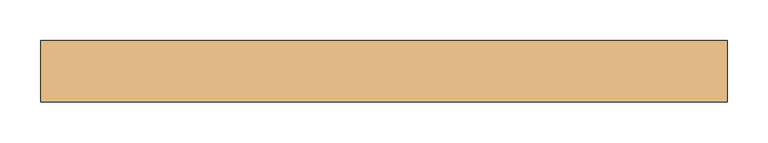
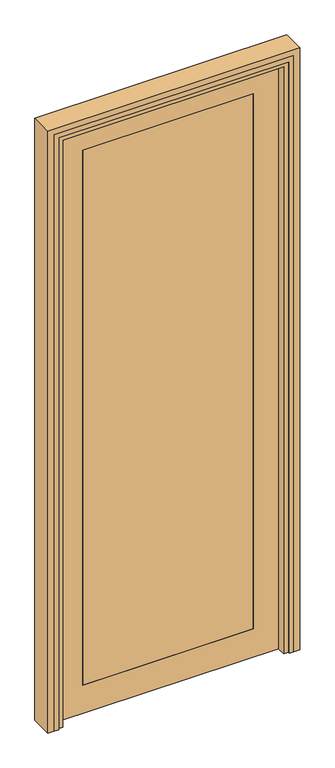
"""IFC4 building model written with IfcOpenShell, lengths in millimetres: door geometry, VERTI PANORAMA - dveřní panel : PANORAMA - dveřní panel."""

from ifc_helpers import new_model, si_unit, frame, origin, place, context, project, spatial, polyline, outline, extrude, faceted_brep, source, transform, mapped, element, save


def door_05e06224(model_context):
    return source(origin(), model_context, "Body", "SolidModel", [
        extrude(outline(polyline([(284.0, 37.5), (284.0, 32.5), (-284.0, 32.5), (-284.0, 37.5), (284.0, 37.5)])), frame((0.0, 0.0, 100.0), z_axis=(0.0, 0.0, 1.0), x_axis=(1.0, 0.0, 0.0)), (0.0, 0.0, 1.0), 1884.0),
        extrude(outline(polyline([(284.0, -2.5), (-284.0, -2.5), (-284.0, 2.5), (284.0, 2.5), (284.0, -2.5)])), frame((0.0, 0.0, 100.0), z_axis=(0.0, 0.0, 1.0), x_axis=(1.0, 0.0, 0.0)), (0.0, 0.0, 1.0), 1884.0),
        extrude(outline(polyline([(2084.0, 384.0), (2084.0, -384.0), (0.0, -384.0), (0.0, 384.0), (2084.0, 384.0)]), holes=[polyline([(100.0, 284.0), (100.0, -284.0), (1984.0, -284.0), (1984.0, 284.0), (100.0, 284.0)])]), frame((0.0, -2.5, 0.0), z_axis=(0.0, 1.0, 0.0), x_axis=(0.0, 0.0, 1.0)), (0.0, 0.0, 1.0), 40.0),
        extrude(outline(polyline([(0.0, 400.0), (0.0, 420.0), (2120.0, 420.0), (2120.0, -420.0), (0.0, -420.0), (0.0, -400.0), (2100.0, -400.0), (2100.0, 400.0), (0.0, 400.0)])), frame((0.0, -37.5, 0.0), z_axis=(0.0, 1.0, 0.0), x_axis=(0.0, 0.0, 1.0)), (0.0, 0.0, 1.0), 75.0),
        faceted_brep([(-384.0, -37.5, 0.0), (-400.0, -37.5, 0.0), (-400.0, 37.5, 0.0), (-384.0, 37.5, 0.0), (-384.0, -2.5, 0.0), (-368.0, -2.5, 0.0), (-368.0, -32.5, 0.0), (-384.0, -32.5, 0.0), (-384.0, -37.5, 2084.0), (384.0, -37.5, 2084.0), (384.0, -37.5, 0.0), (400.0, -37.5, 0.0), (400.0, -37.5, 2100.0), (-400.0, -37.5, 2100.0), (-400.0, 37.5, 2100.0), (400.0, 37.5, 2100.0), (400.0, 37.5, 0.0), (384.0, 37.5, 0.0), (384.0, 37.5, 2084.0), (-384.0, 37.5, 2084.0), (-384.0, -2.5, 2084.0), (384.0, -2.5, 2084.0), (384.0, -2.5, 0.0), (368.0, -2.5, 0.0), (368.0, -2.5, 2068.0), (-368.0, -2.5, 2068.0), (-368.0, -32.5, 2068.0), (368.0, -32.5, 2068.0), (368.0, -32.5, 0.0), (384.0, -32.5, 0.0), (384.0, -32.5, 2084.0), (-384.0, -32.5, 2084.0)], [[[0, 1, 2, 3, 4, 5, 6, 7]], [[1, 0, 8, 9, 10, 11, 12, 13]], [[2, 1, 13, 14]], [[3, 2, 14, 15, 16, 17, 18, 19]], [[4, 3, 19, 20]], [[5, 4, 20, 21, 22, 23, 24, 25]], [[6, 5, 25, 26]], [[7, 6, 26, 27, 28, 29, 30, 31]], [[0, 7, 31, 8]], [[9, 30, 29, 10]], [[10, 29, 28, 23, 22, 17, 16, 11]], [[15, 12, 11, 16]], [[21, 18, 17, 22]], [[27, 24, 23, 28]], [[8, 31, 30, 9]], [[14, 13, 12, 15]], [[20, 19, 18, 21]], [[26, 25, 24, 27]]]),
    ])


if __name__ == "__main__":
    model = new_model("IFC4")
    model_context = context("Model", 3, world=origin())
    ifc_project = project(units=[si_unit("LENGTHUNIT", "METRE", prefix="MILLI")], contexts=[model_context])
    site = spatial("IfcSite", under=ifc_project)
    building = spatial("IfcBuilding", under=site)
    placement = place(None, origin())
    door_shape = door_05e06224(model_context)
    element("IfcDoor", 1, ObjectType="VERTI PANORAMA - dveřní panel : PANORAMA - dveřní panel", at=placement, inside=building, context=model_context, shape_type="MappedRepresentation", body=[
        mapped(door_shape, transform((0.0, 0.0, 0.0), x_axis=(1.0, 0.0, 0.0), y_axis=(0.0, 1.0, 0.0), z_axis=(0.0, 0.0, 1.0))),
    ])
    save(model, "model.ifc")
